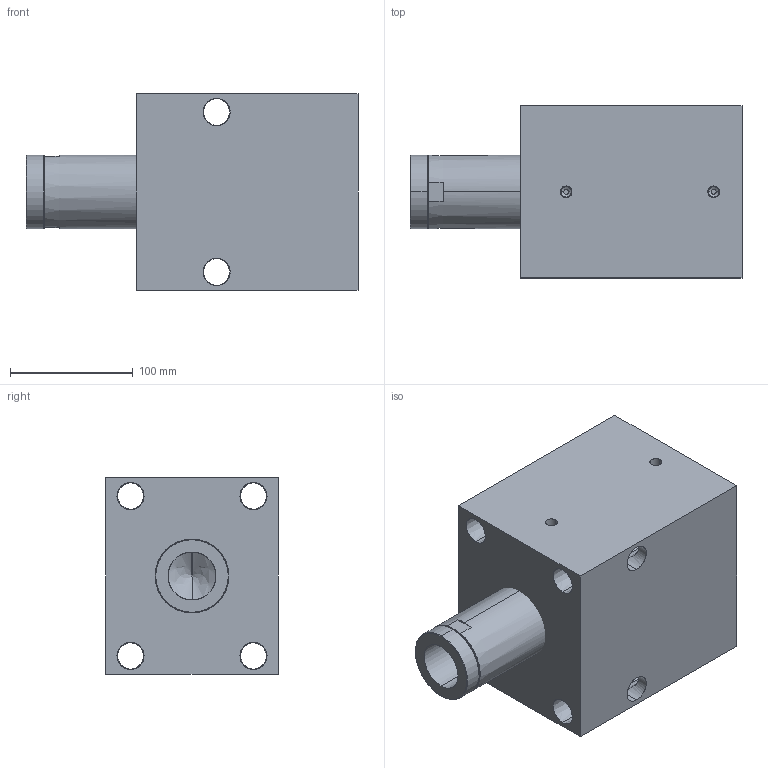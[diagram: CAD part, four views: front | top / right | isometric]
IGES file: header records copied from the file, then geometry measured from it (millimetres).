
Start section: SolidWorks IGES file using analytic representation for surfaces
Global section: file name: C:\Documents and Settings\rajib\Desktop\Rajib\BLOCK CYLINDER HYDRAULIC\0901-0906\IGES 0901-0908\0906.IGS; native system: SolidWorks 2007; preprocessor: SolidWorks 2007; author: rajib; date: 110121.165643; units: millimetre
Bounding box: 270 x 140 x 160 mm (x, y, z)
Surface area: 244925.3 mm2 (no closed solid volume)
Topology: 0 solids, 0 shells, 80 faces, 2048 edges, 2046 vertices
Faces by surface type: revolution 58, bspline 22
